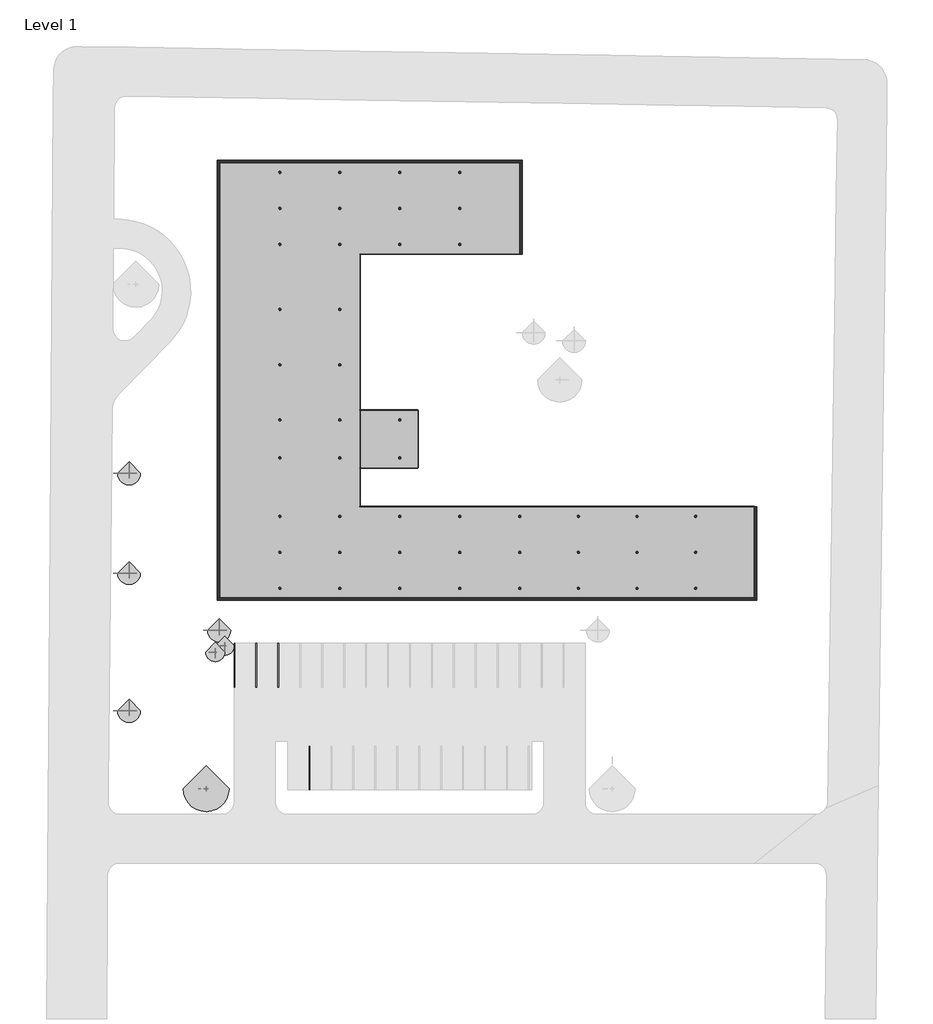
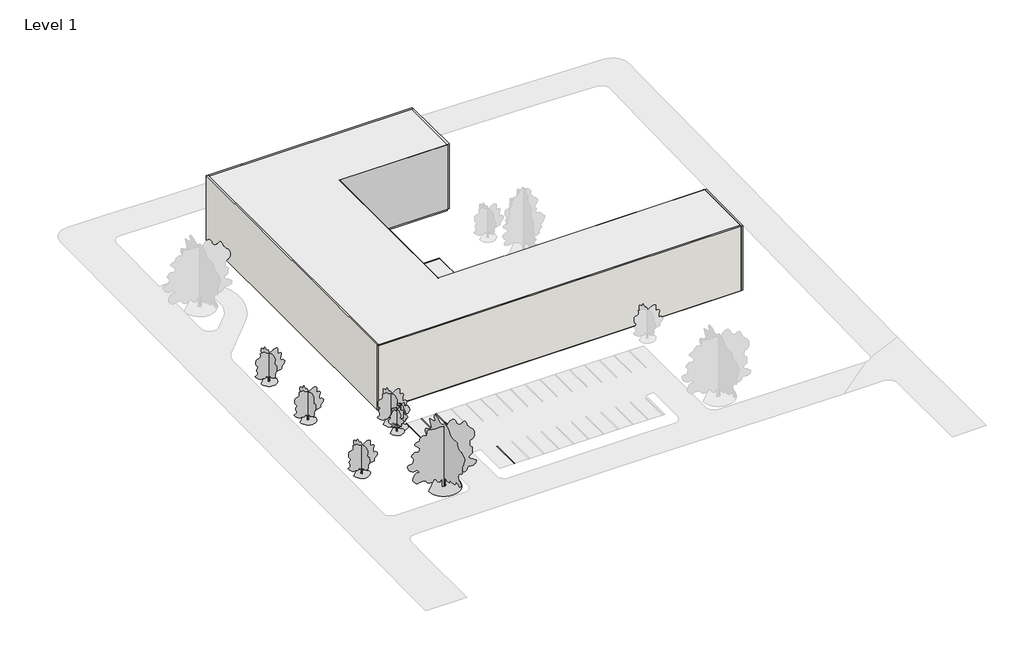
# One storey, part 1 of 2: 46 columns, 7 geographic elements, 6 plates, 5 walls, 4 proxies, 1 slab.
"""IFC4 building model written with IfcOpenShell, lengths in millimetres."""

from ifc_helpers import new_model, si_unit, frame, origin, origin_with_axes, place, context, project, spatial, polyline, outline, extrude, faceted_brep, transform, mapped, element, save
from components import m_parking_space_5480_x_2740mm_90_deg_a793e569, m_concrete_round_column_300mm_d628642f, m_rpc_tree_deciduous_american_beech_6_0_meters_be49fed4, m_rpc_tree_deciduous_japanese_cherry_4_5_meters_7aaeb41d, m_rpc_tree_deciduous_scarlet_oak_12_5_meters_13b38d7d, system_panel_glazed_ea1d4783, system_panel_glazed_0138fbac, system_panel_glazed_4f984452, system_panel_glazed_1d282ff8, system_panel_glazed_603ace41

model = new_model("IFC4")

# Units and contexts
model_context = context("Model", 3, world=origin())
ifc_project = project(units=[si_unit("LENGTHUNIT", "METRE", prefix="MILLI")], contexts=[model_context])

# Site, building, storey
site = spatial("IfcSite", under=ifc_project)
building = spatial("IfcBuilding", under=site)
storey = spatial("IfcBuildingStorey", under=building, Name="Level 1", Elevation=0.0)

# Proxies
placement = place(None, origin())
m_parking_space_5480_x_2740mm_90_deg_shape = m_parking_space_5480_x_2740mm_90_deg_a793e569(model_context)
element("IfcBuildingElementProxy", 1, Name="M_Parking Space : 5480 x 2740mm - 90 deg", ObjectType="M_Parking Space : 5480 x 2740mm - 90 deg", at=placement, inside=storey, context=model_context, shape_type="MappedRepresentation", body=[
    mapped(m_parking_space_5480_x_2740mm_90_deg_shape, transform((-8211.3704002, -29206.3707642, 0.7803686), x_axis=(1.0, 0.0, 0.0), y_axis=(0.0, 1.0, 0.0), z_axis=(0.0, 0.0, 1.0))),
])
element("IfcBuildingElementProxy", 2, Name="M_Parking Space : 5480 x 2740mm - 90 deg", ObjectType="M_Parking Space : 5480 x 2740mm - 90 deg", at=placement, inside=storey, context=model_context, shape_type="MappedRepresentation", body=[
    mapped(m_parking_space_5480_x_2740mm_90_deg_shape, transform((-5471.4012928, -29206.3707642, 0.7803686), x_axis=(1.0, 0.0, 0.0), y_axis=(0.0, 1.0, 0.0), z_axis=(0.0, 0.0, 1.0))),
])
element("IfcBuildingElementProxy", 3, Name="M_Parking Space : 5480 x 2740mm - 90 deg", ObjectType="M_Parking Space : 5480 x 2740mm - 90 deg", at=placement, inside=storey, context=model_context, shape_type="MappedRepresentation", body=[
    mapped(m_parking_space_5480_x_2740mm_90_deg_shape, transform((-2731.4321855, -29206.3707642, 0.7803686), x_axis=(1.0, 0.0, 0.0), y_axis=(0.0, 1.0, 0.0), z_axis=(0.0, 0.0, 1.0))),
])
element("IfcBuildingElementProxy", 4, Name="M_Parking Space : 5480 x 2740mm - 90 deg", ObjectType="M_Parking Space : 5480 x 2740mm - 90 deg", at=placement, inside=storey, context=model_context, shape_type="MappedRepresentation", body=[
    mapped(m_parking_space_5480_x_2740mm_90_deg_shape, transform((1158.3124343, -47494.3704098, 0.7803686), x_axis=(-1.0, 0.0, 0.0), y_axis=(0.0, -1.0, 0.0), z_axis=(0.0, 0.0, 1.0))),
])

# Columns
m_concrete_round_column_300mm_shape = m_concrete_round_column_300mm_d628642f(model_context)
element("IfcColumn", 5, ObjectType="M_Concrete-Round-Column : 300mm", at=placement, inside=storey, context=model_context, shape_type="MappedRepresentation", body=[
    mapped(m_concrete_round_column_300mm_shape, transform((-2539.0909489, 25116.7095931, 0.0), x_axis=(-1.0, 0.0, 0.0), y_axis=(0.0, -1.0, 0.0), z_axis=(0.0, 0.0, 1.0))),
])
element("IfcColumn", 6, ObjectType="M_Concrete-Round-Column : 300mm", at=placement, inside=storey, context=model_context, shape_type="MappedRepresentation", body=[
    mapped(m_concrete_round_column_300mm_shape, transform((-2539.0909489, 12506.7392059, 0.0), x_axis=(-1.0, 0.0, 0.0), y_axis=(0.0, -1.0, 0.0), z_axis=(0.0, 0.0, 1.0))),
])
element("IfcColumn", 7, ObjectType="M_Concrete-Round-Column : 300mm", at=placement, inside=storey, context=model_context, shape_type="MappedRepresentation", body=[
    mapped(m_concrete_round_column_300mm_shape, transform((-2539.0909489, 5598.6392059, 0.0), x_axis=(-1.0, 0.0, 0.0), y_axis=(0.0, -1.0, 0.0), z_axis=(0.0, 0.0, 1.0))),
])
element("IfcColumn", 8, ObjectType="M_Concrete-Round-Column : 300mm", at=placement, inside=storey, context=model_context, shape_type="MappedRepresentation", body=[
    mapped(m_concrete_round_column_300mm_shape, transform((-2539.0909489, -1309.4607941, 0.0), x_axis=(-1.0, 0.0, 0.0), y_axis=(0.0, -1.0, 0.0), z_axis=(0.0, 0.0, 1.0))),
])
element("IfcColumn", 9, ObjectType="M_Concrete-Round-Column : 300mm", at=placement, inside=storey, context=model_context, shape_type="MappedRepresentation", body=[
    mapped(m_concrete_round_column_300mm_shape, transform((-2539.0909489, -6063.8611817, 0.0), x_axis=(-1.0, 0.0, 0.0), y_axis=(0.0, -1.0, 0.0), z_axis=(0.0, 0.0, 1.0))),
])
element("IfcColumn", 10, ObjectType="M_Concrete-Round-Column : 300mm", at=placement, inside=storey, context=model_context, shape_type="MappedRepresentation", body=[
    mapped(m_concrete_round_column_300mm_shape, transform((-2539.0909489, -17821.5310875, 0.0), x_axis=(-1.0, 0.0, 0.0), y_axis=(0.0, -1.0, 0.0), z_axis=(0.0, 0.0, 1.0))),
])
element("IfcColumn", 11, ObjectType="M_Concrete-Round-Column : 300mm", at=placement, inside=storey, context=model_context, shape_type="MappedRepresentation", body=[
    mapped(m_concrete_round_column_300mm_shape, transform((-2539.0909489, 29618.5799804, 0.0), x_axis=(-1.0, 0.0, 0.0), y_axis=(0.0, -1.0, 0.0), z_axis=(0.0, 0.0, 1.0))),
])
element("IfcColumn", 12, ObjectType="M_Concrete-Round-Column : 300mm", at=placement, inside=storey, context=model_context, shape_type="MappedRepresentation", body=[
    mapped(m_concrete_round_column_300mm_shape, transform((-2539.0909489, 20614.8392059, 0.0), x_axis=(-1.0, 0.0, 0.0), y_axis=(0.0, -1.0, 0.0), z_axis=(0.0, 0.0, 1.0))),
])
element("IfcColumn", 13, ObjectType="M_Concrete-Round-Column : 300mm", at=placement, inside=storey, context=model_context, shape_type="MappedRepresentation", body=[
    mapped(m_concrete_round_column_300mm_shape, transform((-2539.0909489, -13332.3615692, 0.0), x_axis=(-1.0, 0.0, 0.0), y_axis=(0.0, -1.0, 0.0), z_axis=(0.0, 0.0, 1.0))),
])
element("IfcColumn", 14, ObjectType="M_Concrete-Round-Column : 300mm", at=placement, inside=storey, context=model_context, shape_type="MappedRepresentation", body=[
    mapped(m_concrete_round_column_300mm_shape, transform((-2539.0909489, -22310.7006057, 0.0), x_axis=(-1.0, 0.0, 0.0), y_axis=(0.0, -1.0, 0.0), z_axis=(0.0, 0.0, 1.0))),
])
element("IfcColumn", 15, ObjectType="M_Concrete-Round-Column : 300mm", at=placement, inside=storey, context=model_context, shape_type="MappedRepresentation", body=[
    mapped(m_concrete_round_column_300mm_shape, transform((4948.6567657, 25116.7095931, 0.0), x_axis=(-1.0, 0.0, 0.0), y_axis=(0.0, -1.0, 0.0), z_axis=(0.0, 0.0, 1.0))),
])
element("IfcColumn", 16, ObjectType="M_Concrete-Round-Column : 300mm", at=placement, inside=storey, context=model_context, shape_type="MappedRepresentation", body=[
    mapped(m_concrete_round_column_300mm_shape, transform((4948.6567657, 12506.7392059, 0.0), x_axis=(-1.0, 0.0, 0.0), y_axis=(0.0, -1.0, 0.0), z_axis=(0.0, 0.0, 1.0))),
])
element("IfcColumn", 17, ObjectType="M_Concrete-Round-Column : 300mm", at=placement, inside=storey, context=model_context, shape_type="MappedRepresentation", body=[
    mapped(m_concrete_round_column_300mm_shape, transform((4948.6567657, 5598.6392059, 0.0), x_axis=(-1.0, 0.0, 0.0), y_axis=(0.0, -1.0, 0.0), z_axis=(0.0, 0.0, 1.0))),
])
element("IfcColumn", 18, ObjectType="M_Concrete-Round-Column : 300mm", at=placement, inside=storey, context=model_context, shape_type="MappedRepresentation", body=[
    mapped(m_concrete_round_column_300mm_shape, transform((4948.6567657, -1309.4607941, 0.0), x_axis=(-1.0, 0.0, 0.0), y_axis=(0.0, -1.0, 0.0), z_axis=(0.0, 0.0, 1.0))),
])
element("IfcColumn", 19, ObjectType="M_Concrete-Round-Column : 300mm", at=placement, inside=storey, context=model_context, shape_type="MappedRepresentation", body=[
    mapped(m_concrete_round_column_300mm_shape, transform((4948.6567657, -6063.8611817, 0.0), x_axis=(-1.0, 0.0, 0.0), y_axis=(0.0, -1.0, 0.0), z_axis=(0.0, 0.0, 1.0))),
])
element("IfcColumn", 20, ObjectType="M_Concrete-Round-Column : 300mm", at=placement, inside=storey, context=model_context, shape_type="MappedRepresentation", body=[
    mapped(m_concrete_round_column_300mm_shape, transform((4948.6567657, -17821.5310875, 0.0), x_axis=(-1.0, 0.0, 0.0), y_axis=(0.0, -1.0, 0.0), z_axis=(0.0, 0.0, 1.0))),
])
element("IfcColumn", 21, ObjectType="M_Concrete-Round-Column : 300mm", at=placement, inside=storey, context=model_context, shape_type="MappedRepresentation", body=[
    mapped(m_concrete_round_column_300mm_shape, transform((4948.6567657, 29618.5799804, 0.0), x_axis=(-1.0, 0.0, 0.0), y_axis=(0.0, -1.0, 0.0), z_axis=(0.0, 0.0, 1.0))),
])
element("IfcColumn", 22, ObjectType="M_Concrete-Round-Column : 300mm", at=placement, inside=storey, context=model_context, shape_type="MappedRepresentation", body=[
    mapped(m_concrete_round_column_300mm_shape, transform((4948.6567657, 20614.8392059, 0.0), x_axis=(-1.0, 0.0, 0.0), y_axis=(0.0, -1.0, 0.0), z_axis=(0.0, 0.0, 1.0))),
])
element("IfcColumn", 23, ObjectType="M_Concrete-Round-Column : 300mm", at=placement, inside=storey, context=model_context, shape_type="MappedRepresentation", body=[
    mapped(m_concrete_round_column_300mm_shape, transform((4948.6567657, -13332.3615692, 0.0), x_axis=(-1.0, 0.0, 0.0), y_axis=(0.0, -1.0, 0.0), z_axis=(0.0, 0.0, 1.0))),
])
element("IfcColumn", 24, ObjectType="M_Concrete-Round-Column : 300mm", at=placement, inside=storey, context=model_context, shape_type="MappedRepresentation", body=[
    mapped(m_concrete_round_column_300mm_shape, transform((4948.6567657, -22310.7006057, 0.0), x_axis=(-1.0, 0.0, 0.0), y_axis=(0.0, -1.0, 0.0), z_axis=(0.0, 0.0, 1.0))),
])
element("IfcColumn", 25, ObjectType="M_Concrete-Round-Column : 300mm", at=placement, inside=storey, context=model_context, shape_type="MappedRepresentation", body=[
    mapped(m_concrete_round_column_300mm_shape, transform((12436.4044804, 25116.7095931, 0.0), x_axis=(-1.0, 0.0, 0.0), y_axis=(0.0, -1.0, 0.0), z_axis=(0.0, 0.0, 1.0))),
])
element("IfcColumn", 26, ObjectType="M_Concrete-Round-Column : 300mm", at=placement, inside=storey, context=model_context, shape_type="MappedRepresentation", body=[
    mapped(m_concrete_round_column_300mm_shape, transform((12436.4044804, -1309.4607941, 0.0), x_axis=(-1.0, 0.0, 0.0), y_axis=(0.0, -1.0, 0.0), z_axis=(0.0, 0.0, 1.0))),
])
element("IfcColumn", 27, ObjectType="M_Concrete-Round-Column : 300mm", at=placement, inside=storey, context=model_context, shape_type="MappedRepresentation", body=[
    mapped(m_concrete_round_column_300mm_shape, transform((12436.4044804, -6063.8611817, 0.0), x_axis=(-1.0, 0.0, 0.0), y_axis=(0.0, -1.0, 0.0), z_axis=(0.0, 0.0, 1.0))),
])
element("IfcColumn", 28, ObjectType="M_Concrete-Round-Column : 300mm", at=placement, inside=storey, context=model_context, shape_type="MappedRepresentation", body=[
    mapped(m_concrete_round_column_300mm_shape, transform((12436.4044804, -17821.5310875, 0.0), x_axis=(-1.0, 0.0, 0.0), y_axis=(0.0, -1.0, 0.0), z_axis=(0.0, 0.0, 1.0))),
])
element("IfcColumn", 29, ObjectType="M_Concrete-Round-Column : 300mm", at=placement, inside=storey, context=model_context, shape_type="MappedRepresentation", body=[
    mapped(m_concrete_round_column_300mm_shape, transform((12436.4044804, 29618.5799804, 0.0), x_axis=(-1.0, 0.0, 0.0), y_axis=(0.0, -1.0, 0.0), z_axis=(0.0, 0.0, 1.0))),
])
element("IfcColumn", 30, ObjectType="M_Concrete-Round-Column : 300mm", at=placement, inside=storey, context=model_context, shape_type="MappedRepresentation", body=[
    mapped(m_concrete_round_column_300mm_shape, transform((12436.4044804, 20614.8392059, 0.0), x_axis=(-1.0, 0.0, 0.0), y_axis=(0.0, -1.0, 0.0), z_axis=(0.0, 0.0, 1.0))),
])
element("IfcColumn", 31, ObjectType="M_Concrete-Round-Column : 300mm", at=placement, inside=storey, context=model_context, shape_type="MappedRepresentation", body=[
    mapped(m_concrete_round_column_300mm_shape, transform((12436.4044804, -13332.3615692, 0.0), x_axis=(-1.0, 0.0, 0.0), y_axis=(0.0, -1.0, 0.0), z_axis=(0.0, 0.0, 1.0))),
])
element("IfcColumn", 32, ObjectType="M_Concrete-Round-Column : 300mm", at=placement, inside=storey, context=model_context, shape_type="MappedRepresentation", body=[
    mapped(m_concrete_round_column_300mm_shape, transform((12436.4044804, -22310.7006057, 0.0), x_axis=(-1.0, 0.0, 0.0), y_axis=(0.0, -1.0, 0.0), z_axis=(0.0, 0.0, 1.0))),
])
element("IfcColumn", 33, ObjectType="M_Concrete-Round-Column : 300mm", at=placement, inside=storey, context=model_context, shape_type="MappedRepresentation", body=[
    mapped(m_concrete_round_column_300mm_shape, transform((19924.152195, 25116.7095931, 0.0), x_axis=(-1.0, 0.0, 0.0), y_axis=(0.0, -1.0, 0.0), z_axis=(0.0, 0.0, 1.0))),
])
element("IfcColumn", 34, ObjectType="M_Concrete-Round-Column : 300mm", at=placement, inside=storey, context=model_context, shape_type="MappedRepresentation", body=[
    mapped(m_concrete_round_column_300mm_shape, transform((19924.152195, -17821.5310875, 0.0), x_axis=(-1.0, 0.0, 0.0), y_axis=(0.0, -1.0, 0.0), z_axis=(0.0, 0.0, 1.0))),
])
element("IfcColumn", 35, ObjectType="M_Concrete-Round-Column : 300mm", at=placement, inside=storey, context=model_context, shape_type="MappedRepresentation", body=[
    mapped(m_concrete_round_column_300mm_shape, transform((19924.152195, 29618.5799804, 0.0), x_axis=(-1.0, 0.0, 0.0), y_axis=(0.0, -1.0, 0.0), z_axis=(0.0, 0.0, 1.0))),
])
element("IfcColumn", 36, ObjectType="M_Concrete-Round-Column : 300mm", at=placement, inside=storey, context=model_context, shape_type="MappedRepresentation", body=[
    mapped(m_concrete_round_column_300mm_shape, transform((19924.152195, 20614.8392059, 0.0), x_axis=(-1.0, 0.0, 0.0), y_axis=(0.0, -1.0, 0.0), z_axis=(0.0, 0.0, 1.0))),
])
element("IfcColumn", 37, ObjectType="M_Concrete-Round-Column : 300mm", at=placement, inside=storey, context=model_context, shape_type="MappedRepresentation", body=[
    mapped(m_concrete_round_column_300mm_shape, transform((19924.152195, -13332.3615692, 0.0), x_axis=(-1.0, 0.0, 0.0), y_axis=(0.0, -1.0, 0.0), z_axis=(0.0, 0.0, 1.0))),
])
element("IfcColumn", 38, ObjectType="M_Concrete-Round-Column : 300mm", at=placement, inside=storey, context=model_context, shape_type="MappedRepresentation", body=[
    mapped(m_concrete_round_column_300mm_shape, transform((19924.152195, -22310.7006057, 0.0), x_axis=(-1.0, 0.0, 0.0), y_axis=(0.0, -1.0, 0.0), z_axis=(0.0, 0.0, 1.0))),
])
element("IfcColumn", 39, ObjectType="M_Concrete-Round-Column : 300mm", at=placement, inside=storey, context=model_context, shape_type="MappedRepresentation", body=[
    mapped(m_concrete_round_column_300mm_shape, transform((27411.8999097, -17821.5310875, 0.0), x_axis=(-1.0, 0.0, 0.0), y_axis=(0.0, -1.0, 0.0), z_axis=(0.0, 0.0, 1.0))),
])
element("IfcColumn", 40, ObjectType="M_Concrete-Round-Column : 300mm", at=placement, inside=storey, context=model_context, shape_type="MappedRepresentation", body=[
    mapped(m_concrete_round_column_300mm_shape, transform((27411.8999097, -13332.3615692, 0.0), x_axis=(-1.0, 0.0, 0.0), y_axis=(0.0, -1.0, 0.0), z_axis=(0.0, 0.0, 1.0))),
])
element("IfcColumn", 41, ObjectType="M_Concrete-Round-Column : 300mm", at=placement, inside=storey, context=model_context, shape_type="MappedRepresentation", body=[
    mapped(m_concrete_round_column_300mm_shape, transform((27411.8999097, -22310.7006057, 0.0), x_axis=(-1.0, 0.0, 0.0), y_axis=(0.0, -1.0, 0.0), z_axis=(0.0, 0.0, 1.0))),
])
element("IfcColumn", 42, ObjectType="M_Concrete-Round-Column : 300mm", at=placement, inside=storey, context=model_context, shape_type="MappedRepresentation", body=[
    mapped(m_concrete_round_column_300mm_shape, transform((34733.7042668, -17821.5310875, 0.0), x_axis=(-1.0, 0.0, 0.0), y_axis=(0.0, -1.0, 0.0), z_axis=(0.0, 0.0, 1.0))),
])
element("IfcColumn", 43, ObjectType="M_Concrete-Round-Column : 300mm", at=placement, inside=storey, context=model_context, shape_type="MappedRepresentation", body=[
    mapped(m_concrete_round_column_300mm_shape, transform((34733.7042668, -13332.3615692, 0.0), x_axis=(-1.0, 0.0, 0.0), y_axis=(0.0, -1.0, 0.0), z_axis=(0.0, 0.0, 1.0))),
])
element("IfcColumn", 44, ObjectType="M_Concrete-Round-Column : 300mm", at=placement, inside=storey, context=model_context, shape_type="MappedRepresentation", body=[
    mapped(m_concrete_round_column_300mm_shape, transform((34733.7042668, -22310.7006057, 0.0), x_axis=(-1.0, 0.0, 0.0), y_axis=(0.0, -1.0, 0.0), z_axis=(0.0, 0.0, 1.0))),
])
element("IfcColumn", 45, ObjectType="M_Concrete-Round-Column : 300mm", at=placement, inside=storey, context=model_context, shape_type="MappedRepresentation", body=[
    mapped(m_concrete_round_column_300mm_shape, transform((42055.5086239, -17821.5310875, 0.0), x_axis=(-1.0, 0.0, 0.0), y_axis=(0.0, -1.0, 0.0), z_axis=(0.0, 0.0, 1.0))),
])
element("IfcColumn", 46, ObjectType="M_Concrete-Round-Column : 300mm", at=placement, inside=storey, context=model_context, shape_type="MappedRepresentation", body=[
    mapped(m_concrete_round_column_300mm_shape, transform((42055.5086239, -13332.3615692, 0.0), x_axis=(-1.0, 0.0, 0.0), y_axis=(0.0, -1.0, 0.0), z_axis=(0.0, 0.0, 1.0))),
])
element("IfcColumn", 47, ObjectType="M_Concrete-Round-Column : 300mm", at=placement, inside=storey, context=model_context, shape_type="MappedRepresentation", body=[
    mapped(m_concrete_round_column_300mm_shape, transform((42055.5086239, -22310.7006057, 0.0), x_axis=(-1.0, 0.0, 0.0), y_axis=(0.0, -1.0, 0.0), z_axis=(0.0, 0.0, 1.0))),
])
element("IfcColumn", 48, ObjectType="M_Concrete-Round-Column : 300mm", at=placement, inside=storey, context=model_context, shape_type="MappedRepresentation", body=[
    mapped(m_concrete_round_column_300mm_shape, transform((49377.3129811, -17821.5310875, 0.0), x_axis=(-1.0, 0.0, 0.0), y_axis=(0.0, -1.0, 0.0), z_axis=(0.0, 0.0, 1.0))),
])
element("IfcColumn", 49, ObjectType="M_Concrete-Round-Column : 300mm", at=placement, inside=storey, context=model_context, shape_type="MappedRepresentation", body=[
    mapped(m_concrete_round_column_300mm_shape, transform((49377.3129811, -13332.3615692, 0.0), x_axis=(-1.0, 0.0, 0.0), y_axis=(0.0, -1.0, 0.0), z_axis=(0.0, 0.0, 1.0))),
])
element("IfcColumn", 50, ObjectType="M_Concrete-Round-Column : 300mm", at=placement, inside=storey, context=model_context, shape_type="MappedRepresentation", body=[
    mapped(m_concrete_round_column_300mm_shape, transform((49377.3129811, -22310.7006057, 0.0), x_axis=(-1.0, 0.0, 0.0), y_axis=(0.0, -1.0, 0.0), z_axis=(0.0, 0.0, 1.0))),
])

# Geographic elements
m_rpc_tree_deciduous_american_beech_6_0_meters_shape = m_rpc_tree_deciduous_american_beech_6_0_meters_be49fed4(model_context)
element("IfcGeographicElement", 51, ObjectType="M_RPC Tree - Deciduous : American Beech - 6.0 Meters", at=placement, inside=storey, context=model_context, shape_type="MappedRepresentation", body=[
    mapped(m_rpc_tree_deciduous_american_beech_6_0_meters_shape, transform((-21369.8074033, -37622.5453961, 0.0), x_axis=(1.0, 0.0, 0.0), y_axis=(0.0, 1.0, 0.0), z_axis=(0.0, 0.0, 1.0))),
])
element("IfcGeographicElement", 52, ObjectType="M_RPC Tree - Deciduous : American Beech - 6.0 Meters", at=placement, inside=storey, context=model_context, shape_type="MappedRepresentation", body=[
    mapped(m_rpc_tree_deciduous_american_beech_6_0_meters_shape, transform((-21369.8074033, -20409.5737255, 0.0), x_axis=(1.0, 0.0, 0.0), y_axis=(0.0, 1.0, 0.0), z_axis=(0.0, 0.0, 1.0))),
])
element("IfcGeographicElement", 53, ObjectType="M_RPC Tree - Deciduous : American Beech - 6.0 Meters", at=placement, inside=storey, context=model_context, shape_type="MappedRepresentation", body=[
    mapped(m_rpc_tree_deciduous_american_beech_6_0_meters_shape, transform((-21369.8074033, -7968.5149933, 0.0), x_axis=(1.0, 0.0, 0.0), y_axis=(0.0, 1.0, 0.0), z_axis=(0.0, 0.0, 1.0))),
])
element("IfcGeographicElement", 54, ObjectType="M_RPC Tree - Deciduous : American Beech - 6.0 Meters", at=placement, inside=storey, context=model_context, shape_type="MappedRepresentation", body=[
    mapped(m_rpc_tree_deciduous_american_beech_6_0_meters_shape, transform((-10121.7269057, -27567.443133, 0.0), x_axis=(1.0, 0.0, 0.0), y_axis=(0.0, 1.0, 0.0), z_axis=(0.0, 0.0, 1.0))),
])
m_rpc_tree_deciduous_japanese_cherry_4_5_meters_shape = m_rpc_tree_deciduous_japanese_cherry_4_5_meters_7aaeb41d(model_context)
element("IfcGeographicElement", 55, ObjectType="M_RPC Tree - Deciduous : Japanese Cherry - 4.5 Meters", at=placement, inside=storey, context=model_context, shape_type="MappedRepresentation", body=[
    mapped(m_rpc_tree_deciduous_japanese_cherry_4_5_meters_shape, transform((-10610.2166919, -30274.1375785, 0.0), x_axis=(1.0, 0.0, 0.0), y_axis=(0.0, 1.0, 0.0), z_axis=(0.0, 0.0, 1.0))),
])
element("IfcGeographicElement", 56, ObjectType="M_RPC Tree - Deciduous : Japanese Cherry - 4.5 Meters", at=placement, inside=storey, context=model_context, shape_type="MappedRepresentation", body=[
    mapped(m_rpc_tree_deciduous_japanese_cherry_4_5_meters_shape, transform((-9420.9461982, -29474.7859552, 0.0), x_axis=(1.0, 0.0, 0.0), y_axis=(0.0, 1.0, 0.0), z_axis=(0.0, 0.0, 1.0))),
])
m_rpc_tree_deciduous_scarlet_oak_12_5_meters_shape = m_rpc_tree_deciduous_scarlet_oak_12_5_meters_13b38d7d(model_context)
element("IfcGeographicElement", 57, ObjectType="M_RPC Tree - Deciduous : Scarlet Oak - 12.5 Meters", at=placement, inside=storey, context=model_context, shape_type="MappedRepresentation", body=[
    mapped(m_rpc_tree_deciduous_scarlet_oak_12_5_meters_shape, transform((-11740.7687955, -47336.7967349, 0.0), x_axis=(1.0, 0.0, 0.0), y_axis=(0.0, 1.0, 0.0), z_axis=(0.0, 0.0, 1.0))),
])

# Plates
system_panel_glazed_shape = system_panel_glazed_ea1d4783(model_context)
element("IfcPlate", 58, ObjectType="System Panel : Glazed", at=placement, inside=storey, context=model_context, shape_type="MappedRepresentation", body=[
    mapped(system_panel_glazed_shape, transform((11078.2956387, -89.4607941, 0.0), x_axis=(-1.0, 0.0, 0.0), y_axis=(0.0, -1.0, 0.0), z_axis=(0.0, 0.0, 1.0))),
])
element("IfcPlate", 59, ObjectType="System Panel : Glazed", at=placement, inside=storey, context=model_context, shape_type="MappedRepresentation", body=[
    mapped(system_panel_glazed_shape, transform((11078.2956387, -7283.8611817, 0.0), x_axis=(1.0, 0.0, 0.0), y_axis=(0.0, 1.0, 0.0), z_axis=(0.0, 0.0, 1.0))),
])
system_panel_glazed_2_shape = system_panel_glazed_0138fbac(model_context)
element("IfcPlate", 60, ObjectType="System Panel : Glazed", at=placement, inside=storey, context=model_context, shape_type="MappedRepresentation", body=[
    mapped(system_panel_glazed_2_shape, transform((14709.0902051, -3686.6609879, 0.0), x_axis=(0.0, 1.0, 0.0), y_axis=(-1.0, 0.0, 0.0), z_axis=(0.0, 0.0, 1.0))),
])
system_panel_glazed_3_shape = system_panel_glazed_4f984452(model_context)
element("IfcPlate", 61, ObjectType="System Panel : Glazed", at=placement, inside=storey, context=model_context, shape_type="MappedRepresentation", body=[
    mapped(system_panel_glazed_3_shape, transform((32073.3092053, -12132.3615692, 0.0), x_axis=(-1.0, 0.0, 0.0), y_axis=(0.0, -1.0, 0.0), z_axis=(0.0, 0.0, 1.0))),
])
system_panel_glazed_4_shape = system_panel_glazed_1d282ff8(model_context)
element("IfcPlate", 62, ObjectType="System Panel : Glazed", at=placement, inside=storey, context=model_context, shape_type="MappedRepresentation", body=[
    mapped(system_panel_glazed_4_shape, transform((7447.5010724, 3641.2388183, 0.0), x_axis=(0.0, 1.0, 0.0), y_axis=(-1.0, 0.0, 0.0), z_axis=(0.0, 0.0, 1.0))),
])
system_panel_glazed_5_shape = system_panel_glazed_603ace41(model_context)
element("IfcPlate", 63, ObjectType="System Panel : Glazed", at=placement, inside=storey, context=model_context, shape_type="MappedRepresentation", body=[
    mapped(system_panel_glazed_5_shape, transform((17429.700491, 19414.8392059, 0.0), x_axis=(1.0, 0.0, 0.0), y_axis=(0.0, 1.0, 0.0), z_axis=(0.0, 0.0, 1.0))),
])

# Slab
element("IfcSlab", 64, ObjectType="Pad 1", at=placement, inside=storey, context=model_context, shape_type="SweptSolid", body=[
    extrude(outline(polyline([(27411.8999097, 30818.5799804), (27411.8999097, 19414.8392059), (7447.5010724, 19414.8392059), (7447.5010724, -89.4607941), (14709.0902051, -89.4607941), (14709.0902051, -7283.8611817), (7447.5010724, -7283.8611817), (7447.5010724, -12132.3615692), (56699.1173382, -12132.3615692), (56699.1173382, -23510.7006057), (-10026.8386635, -23510.7006057), (-10026.8386635, 30818.5799804), (27411.8999097, 30818.5799804)])), frame((0.0, 0.0, -304.8), z_axis=(0.0, 0.0, 1.0), x_axis=(1.0, 0.0, 0.0)), (0.0, 0.0, 1.0), 304.8),
])

# Walls
element("IfcWall", 65, ObjectType="Exterior - EIFS on Mtl Stud", at=placement, inside=storey, context=model_context, shape_type="Brep", body=[
    faceted_brep([(57001.1173382, -23812.7006057, 0.0), (57001.1173382, -12132.3615692, 0.0), (57001.1173382, -12132.3615692, 12600.0), (57001.1173382, -23812.7006057, 12600.0), (56699.1173382, -23812.7006057, 0.0), (56699.1173382, -23812.7006057, 12600.0), (56699.1173382, -23510.7006057, 12600.0), (56699.1173382, -12132.3615692, 12600.0), (56699.1173382, -12132.3615692, 0.0), (56699.1173382, -23510.7006057, 0.0)], [[[0, 1, 2, 3]], [[4, 5, 6, 7, 8, 9]], [[1, 0, 4, 9, 8]], [[2, 1, 8, 7]], [[3, 2, 7, 6, 5]], [[0, 3, 5, 4]]]),
])
element("IfcWall", 66, ObjectType="Exterior - EIFS on Mtl Stud", at=placement, inside=storey, context=model_context, shape_type="Brep", body=[
    faceted_brep([(-10328.8386635, -23812.7006057, 0.0), (56699.1173382, -23812.7006057, 0.0), (56699.1173382, -23812.7006057, 12600.0), (-10328.8386635, -23812.7006057, 12600.0), (-10328.8386635, -23510.7006057, 0.0), (-10328.8386635, -23510.7006057, 12600.0), (-10026.8386635, -23510.7006057, 12600.0), (56699.1173382, -23510.7006057, 12600.0), (56699.1173382, -23510.7006057, 0.0), (-10026.8386635, -23510.7006057, 0.0)], [[[0, 1, 2, 3]], [[4, 5, 6, 7, 8, 9]], [[1, 0, 4, 9, 8]], [[3, 2, 7, 6, 5]], [[2, 1, 8, 7]], [[0, 3, 5, 4]]]),
])
element("IfcWall", 67, ObjectType="Exterior - EIFS on Mtl Stud", at=placement, inside=storey, context=model_context, shape_type="Brep", body=[
    faceted_brep([(-10328.8386635, 31120.5799804, 0.0), (-10328.8386635, -23510.7006057, 0.0), (-10328.8386635, -23510.7006057, 12600.0), (-10328.8386635, 31120.5799804, 12600.0), (-10026.8386635, 31120.5799804, 0.0), (-10026.8386635, 31120.5799804, 12600.0), (-10026.8386635, 30818.5799804, 12600.0), (-10026.8386635, -23510.7006057, 12600.0), (-10026.8386635, -23510.7006057, 0.0), (-10026.8386635, 30818.5799804, 0.0)], [[[0, 1, 2, 3]], [[4, 5, 6, 7, 8, 9]], [[1, 0, 4, 9, 8]], [[3, 2, 7, 6, 5]], [[2, 1, 8, 7]], [[0, 3, 5, 4]]]),
])
element("IfcWall", 68, ObjectType="Exterior - EIFS on Mtl Stud", at=placement, inside=storey, context=model_context, shape_type="Brep", body=[
    faceted_brep([(27713.8999097, 31120.5799804, 0.0), (-10026.8386635, 31120.5799804, 0.0), (-10026.8386635, 31120.5799804, 12600.0), (27713.8999097, 31120.5799804, 12600.0), (27713.8999097, 30818.5799804, 0.0), (27713.8999097, 30818.5799804, 12600.0), (27411.8999097, 30818.5799804, 12600.0), (-10026.8386635, 30818.5799804, 12600.0), (-10026.8386635, 30818.5799804, 0.0), (27411.8999097, 30818.5799804, 0.0)], [[[0, 1, 2, 3]], [[4, 5, 6, 7, 8, 9]], [[1, 0, 4, 9, 8]], [[3, 2, 7, 6, 5]], [[2, 1, 8, 7]], [[0, 3, 5, 4]]]),
])
element("IfcWall", 69, ObjectType="Exterior - EIFS on Mtl Stud", at=placement, inside=storey, context=model_context, shape_type="SweptSolid", body=[
    extrude(outline(polyline([(27713.8999097, 30818.5799804), (27713.8999097, 19414.8392059), (27411.8999097, 19414.8392059), (27411.8999097, 30818.5799804), (27713.8999097, 30818.5799804)])), origin_with_axes(), (0.0, 0.0, 1.0), 12600.0),
])

save(model, "model.ifc")
